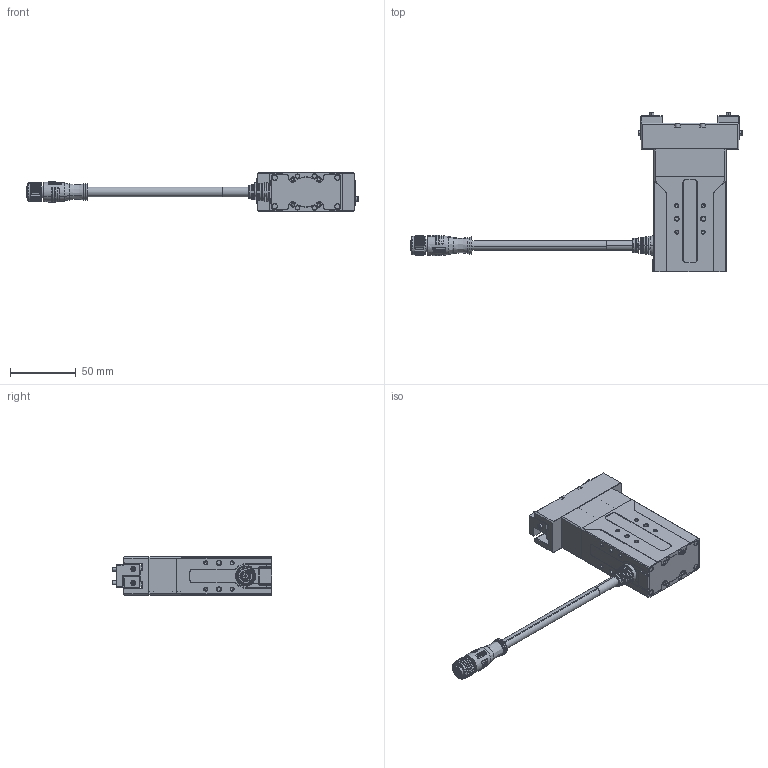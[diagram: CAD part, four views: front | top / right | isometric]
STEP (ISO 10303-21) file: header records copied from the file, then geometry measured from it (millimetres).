
FILE_DESCRIPTION (( 'STEP AP214' ), '1' );
FILE_NAME ('PGE-50-40-W-S_3D潠眢耀倰_v1.0_20230801.STEP', '2023-08-01T06:42:49', ( '' ), ( '' ), 'SwSTEP 2.0', 'SolidWorks 2020', '' );
FILE_SCHEMA (( 'AUTOMOTIVE_DESIGN' ));
Length unit declared in the file: millimetre
Products named in the file (3): 褲; PGE-50-40-W-S_3D潠眢耀倰_v1.0_20230801; PGE-50-40忒硌
Assembly tree (3 placements, depth 2):
  PGE-50-40-W-S_3D潠眢耀倰_v1.0_20230801
    褲
    PGE-50-40忒硌  x2
Bounding box: 251.7 x 120.8 x 29 mm (x, y, z)
Volume: 15604.3 mm3; surface area: 56886.2 mm2
Topology: 6 solids, 23 shells, 1879 faces, 4633 edges, 2853 vertices
Faces by surface type: plane 788, cylinder 436, cone 365, bspline 281, torus 8, sphere 1
Full cylindrical faces by diameter (mm): 11.1 x3
Entity records: 85856 total; most frequent: CARTESIAN_POINT 27610, ORIENTED_EDGE 8480, DIRECTION 7439, EDGE_CURVE 4244, AXIS2_PLACEMENT_3D 2679, VERTEX_POINT 2661, VECTOR 2081, LINE 2081
